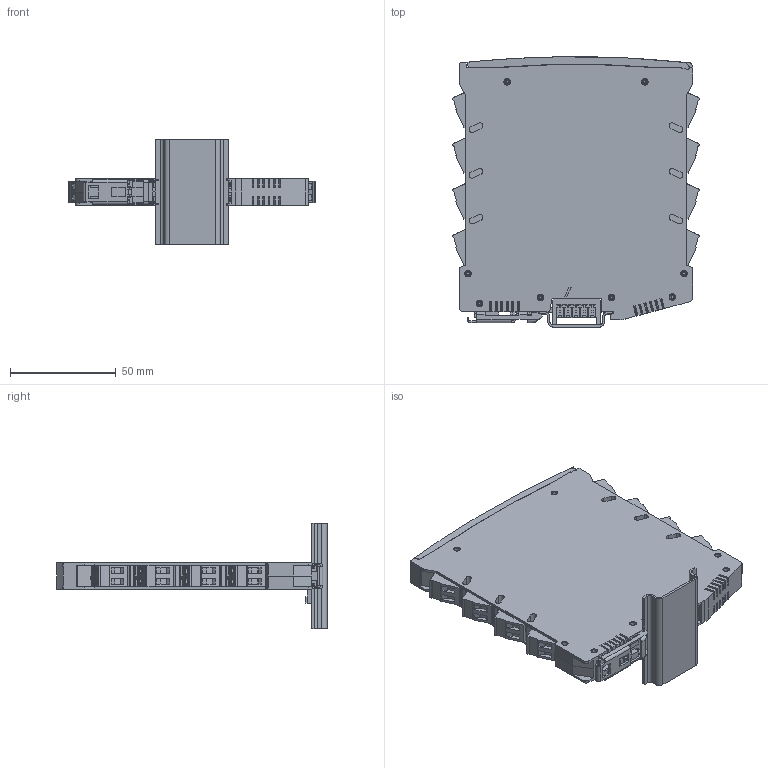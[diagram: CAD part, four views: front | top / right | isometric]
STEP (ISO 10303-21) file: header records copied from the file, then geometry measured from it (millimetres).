
FILE_DESCRIPTION (( 'STEP AP203' ), '1' );
FILE_NAME ('IMX12-DI01-2S-2T-PR.step', '2019-04-12T16:19:47', ( '' ), ( '' ), 'SwSTEP 2.0', 'SolidWorks 2017', '' );
FILE_SCHEMA (( 'CONFIG_CONTROL_DESIGN' ));
Length unit declared in the file: millimetre
Products named in the file (1): IMX12-DI01-2S-2T-PR
Bounding box: 116.88 x 127.58 x 50 mm (x, y, z)
Volume: 162236.3 mm3; surface area: 46872.9 mm2
Topology: 1 solids, 1 shells, 1707 faces, 4708 edges, 3112 vertices
Faces by surface type: plane 1221, cylinder 331, bspline 93, cone 62
Full cylindrical faces by diameter (mm): 1.6 x5, 2.5 x16, 3.85 x32
Entity records: 59777 total; most frequent: CARTESIAN_POINT 17226, ORIENTED_EDGE 9012, DIRECTION 8312, EDGE_CURVE 4506, VECTOR 3324, LINE 3324, VERTEX_POINT 3053, AXIS2_PLACEMENT_3D 2494
